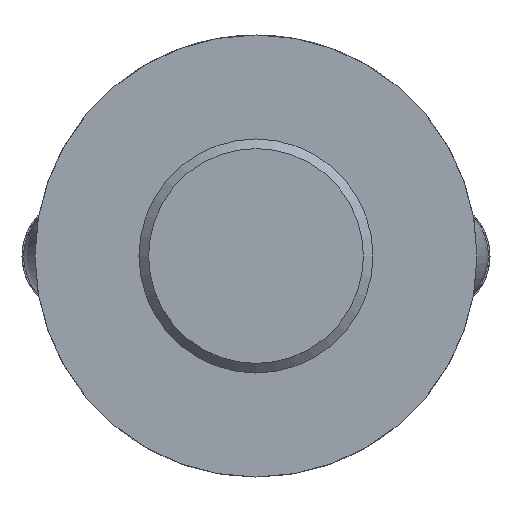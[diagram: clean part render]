
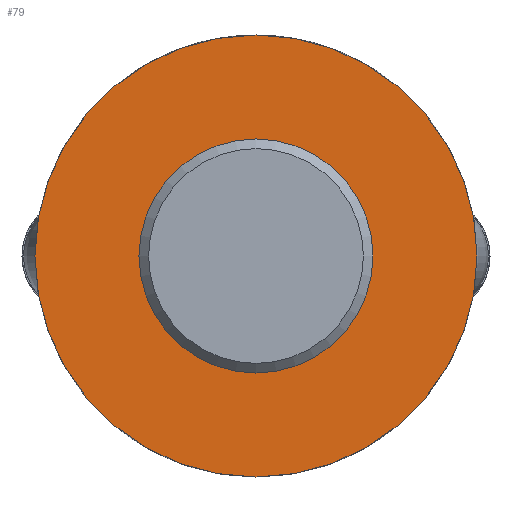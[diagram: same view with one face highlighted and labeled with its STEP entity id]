
A CAD part, front view. The second image highlights one B-rep face of the part: STEP entity #79.
In plain terms, the highlighted planar face has unit normal (0, -1, 0).
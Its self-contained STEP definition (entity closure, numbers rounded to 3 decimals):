
#79 = ADVANCED_FACE( '', ( #115, #116 ), #117, .F. );
#115 = FACE_BOUND( '', #186, .T. );
#116 = FACE_OUTER_BOUND( '', #187, .T. );
#117 = PLANE( '', #188 );
#186 = EDGE_LOOP( '', ( #276 ) );
#187 = EDGE_LOOP( '', ( #277 ) );
#188 = AXIS2_PLACEMENT_3D( '', #278, #279, #280 );
#276 = ORIENTED_EDGE( '', *, *, #464, .T. );
#277 = ORIENTED_EDGE( '', *, *, #465, .T. );
#278 = CARTESIAN_POINT( '', ( 85., 0., 0. ) );
#279 = DIRECTION( '', ( 0., 1., 0. ) );
#280 = DIRECTION( '', ( 0., 0., 1. ) );
#464 = EDGE_CURVE( '', #539, #539, #540, .T. );
#465 = EDGE_CURVE( '', #541, #541, #542, .T. );
#539 = VERTEX_POINT( '', #894 );
#540 = CIRCLE( '', #895, 45. );
#541 = VERTEX_POINT( '', #896 );
#542 = CIRCLE( '', #897, 85. );
#894 = CARTESIAN_POINT( '', ( 0., 0., 45. ) );
#895 = AXIS2_PLACEMENT_3D( '', #1246, #1247, #1248 );
#896 = CARTESIAN_POINT( '', ( 0., 0., -85. ) );
#897 = AXIS2_PLACEMENT_3D( '', #1249, #1250, #1251 );
#1246 = CARTESIAN_POINT( '', ( 0., 0., 0. ) );
#1247 = DIRECTION( '', ( 0., 1., 0. ) );
#1248 = DIRECTION( '', ( 0., 0., 1. ) );
#1249 = CARTESIAN_POINT( '', ( 0., 0., 0. ) );
#1250 = DIRECTION( '', ( 0., -1., 0. ) );
#1251 = DIRECTION( '', ( 0., 0., -1. ) );
